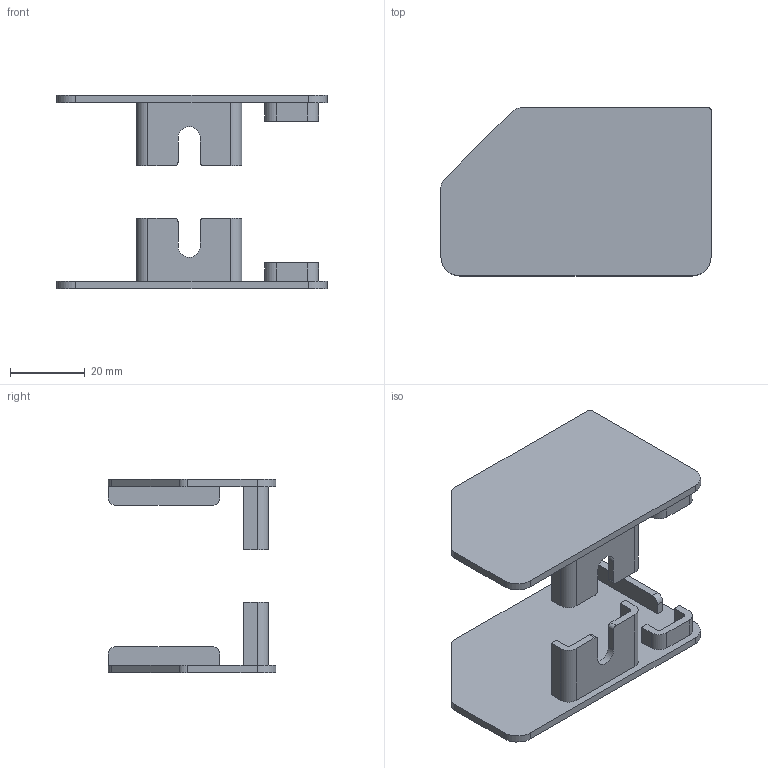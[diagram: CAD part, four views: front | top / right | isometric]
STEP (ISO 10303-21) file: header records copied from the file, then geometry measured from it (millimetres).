
FILE_DESCRIPTION (( 'STEP AP203' ), '1' );
FILE_NAME ('WALL MOUNT ARM ENDCAPS.STEP', '2023-05-25T19:04:47', ( '' ), ( '' ), 'SwSTEP 2.0', 'SolidWorks 2022', '' );
FILE_SCHEMA (( 'CONFIG_CONTROL_DESIGN' ));
Length unit declared in the file: millimetre
Products named in the file (3): WALL MOUNT ARM ENDCAPS; CVR-000841-00; CVR-000840-00
Assembly tree (2 placements, depth 2):
  WALL MOUNT ARM ENDCAPS
    CVR-000841-00
    CVR-000840-00
Bounding box: 72.5 x 45 x 52 mm (x, y, z)
Volume: 15424.3 mm3; surface area: 16577.8 mm2
Topology: 2 solids, 2 shells, 100 faces, 276 edges, 184 vertices
Faces by surface type: plane 64, cylinder 36
Entity records: 3497 total; most frequent: CARTESIAN_POINT 565, DIRECTION 558, ORIENTED_EDGE 552, EDGE_CURVE 276, LINE 204, VECTOR 204, VERTEX_POINT 184, AXIS2_PLACEMENT_3D 177
